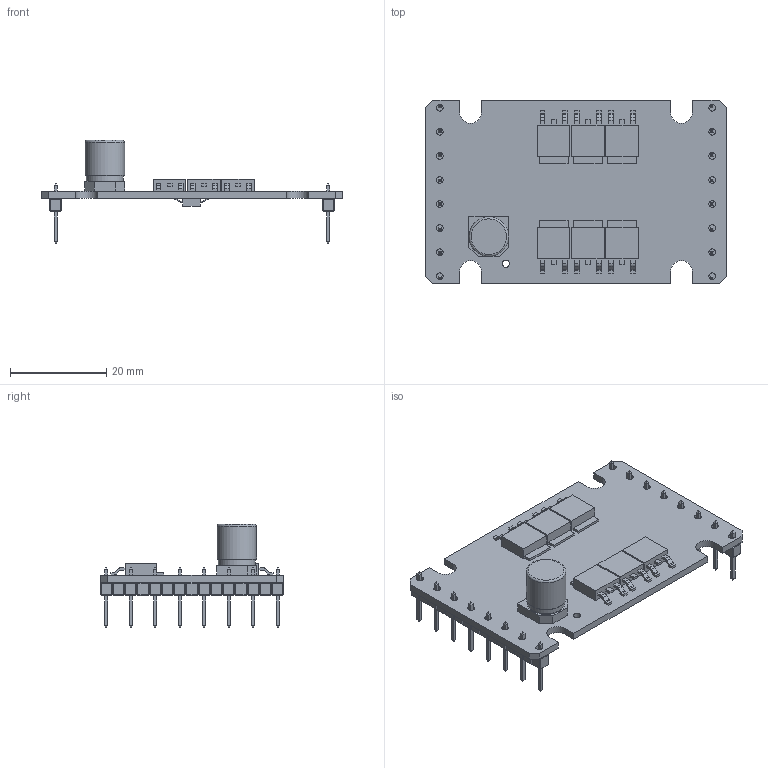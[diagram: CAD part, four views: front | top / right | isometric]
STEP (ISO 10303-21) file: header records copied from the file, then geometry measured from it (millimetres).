
FILE_DESCRIPTION(/* description */ (''),/* implementation_level */ '2;1');
FILE_NAME(/* name */ 'SC2402P.stp',/* time_stamp */ '2012-07-13T14:25:22+02:00',/* author */ ('DR. FRITZ FAULHABER GmbH & Co. KG'),/* organization */ ('DR. FRITZ FAULHABER GmbH & Co. KG'),/* preprocessor_version */ 'ST-DEVELOPER v11',/* originating_system */ 'SIEMENS PLM Software NX 7.5',/* authorisation */ '');
FILE_SCHEMA (('AUTOMOTIVE_DESIGN { 1 0 10303 214 1 1 1 1 }'));
Length unit declared in the file: millimetre
Products named in the file (1): SC2402P
Bounding box: 62.5 x 38.1 x 21.45 mm (x, y, z)
Volume: 5294 mm3; surface area: 6950 mm2
Topology: 1 solids, 1 shells, 1451 faces, 3229 edges, 1832 vertices
Faces by surface type: plane 1376, cylinder 71, torus 4
Full cylindrical faces by diameter (mm): 1.4 x16, 1.5 x1, 7.7 x1, 8.2 x1
Entity records: 38204 total; most frequent: CARTESIAN_POINT 6486, ORIENTED_EDGE 6408, DIRECTION 6254, EDGE_CURVE 3204, LINE 3058, VECTOR 3058, VERTEX_POINT 1830, EDGE_LOOP 1616
